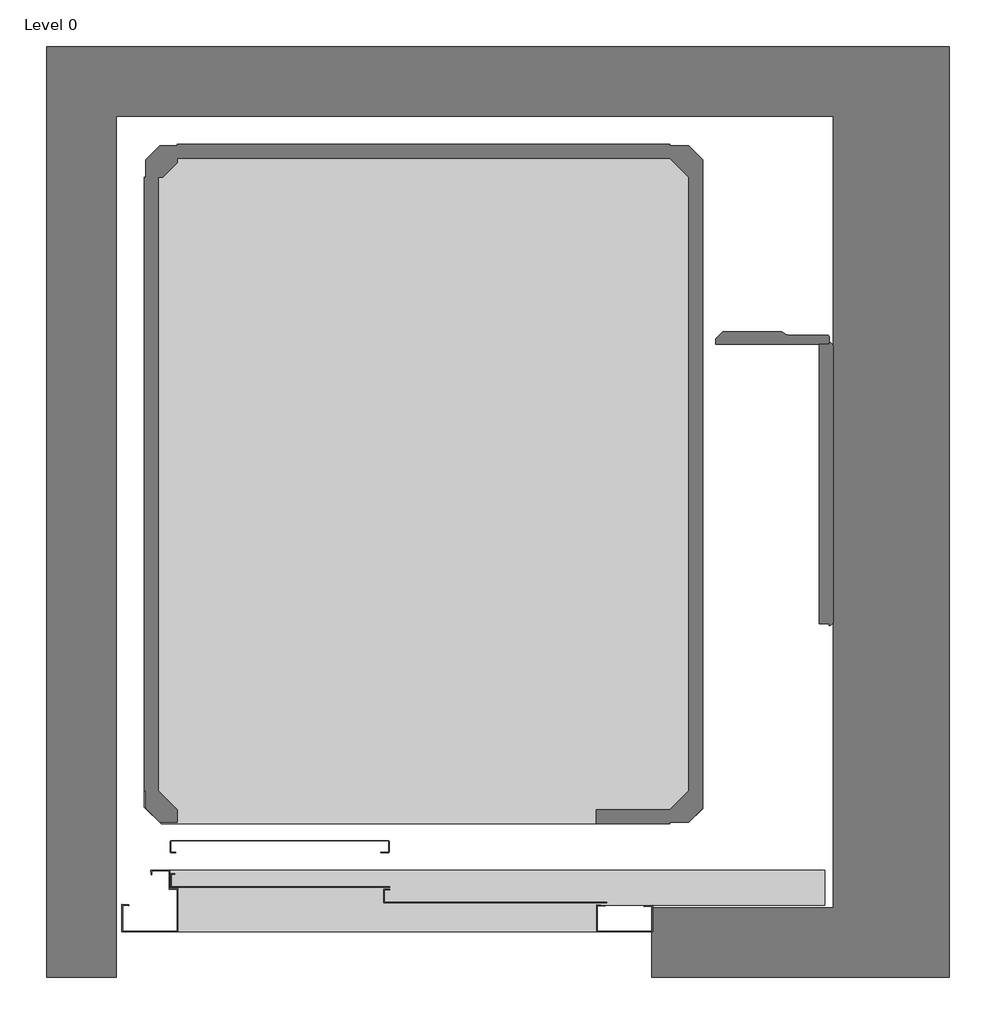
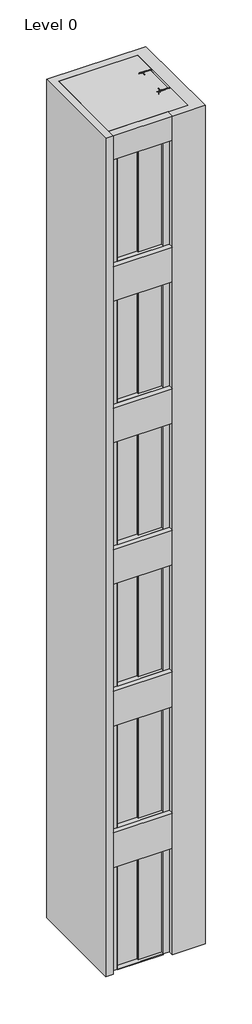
# One storey: 1 proxy.
"""IFC4 building model written with IfcOpenShell, lengths in millimetres."""

from ifc_helpers import new_model, si_unit, origin, place, context, project, spatial, transform, mapped, element, save
from components import proxy_6_floor_30cc6ed3

model = new_model("IFC4")

# Units and contexts
model_context = context("Model", 3, world=origin())
ifc_project = project(units=[si_unit("LENGTHUNIT", "METRE", prefix="MILLI")], contexts=[model_context])

# Site, building, storey
site = spatial("IfcSite", under=ifc_project)
building = spatial("IfcBuilding", under=site)
storey = spatial("IfcBuildingStorey", under=building, Name="Level 0", Elevation=0.0)

# Proxy
placement = place(None, origin())
proxy_6_floor_shape = proxy_6_floor_30cc6ed3(model_context)
element("IfcBuildingElementProxy", 1, Name="Gartec-5000-MRL-Traction-Cabin-Lift : 6 Floor", ObjectType="Gartec-5000-MRL-Traction-Cabin-Lift : 6 Floor", at=placement, inside=storey, context=model_context, shape_type="MappedRepresentation", body=[
    mapped(proxy_6_floor_shape, transform((-412.4041991, 817.072522, 0.0), x_axis=(1.0, 0.0, 0.0), y_axis=(0.0, 1.0, 0.0), z_axis=(0.0, 0.0, 1.0))),
])

save(model, "model.ifc")
